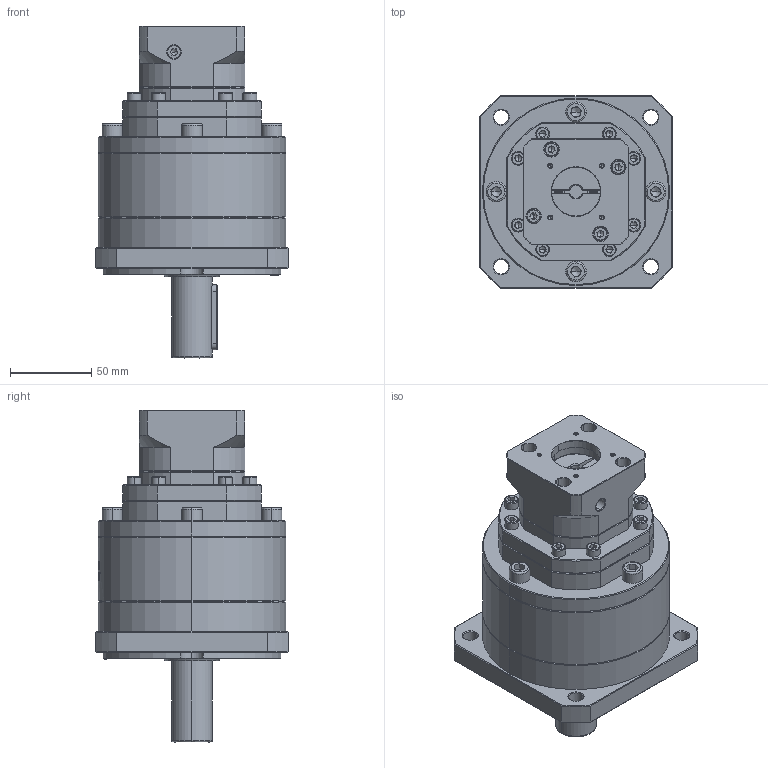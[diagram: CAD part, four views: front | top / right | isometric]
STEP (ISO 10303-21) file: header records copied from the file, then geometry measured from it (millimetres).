
FILE_DESCRIPTION (( 'STEP AP214' ), '1' );
FILE_NAME ('ZF120A-D25-L3-P2-8-30-45-M3.step', '2023-08-27T06:29:54', ( '' ), ( '' ), 'SwSTEP 2.0', 'SolidWorks 2016', '' );
FILE_SCHEMA (( 'AUTOMOTIVE_DESIGN' ));
Length unit declared in the file: millimetre
Products named in the file (1): ZF120A-D25-L3-P2-8-30-45-M3
Bounding box: 118 x 118 x 204 mm (x, y, z)
Volume: 1217377.7 mm3; surface area: 116617.6 mm2
Topology: 7 solids, 7 shells, 2356 faces, 6271 edges, 4025 vertices
Faces by surface type: plane 1179, bspline 435, cylinder 419, cone 301, torus 22
Entity records: 123282 total; most frequent: CARTESIAN_POINT 44094, ORIENTED_EDGE 12434, DIRECTION 9242, EDGE_CURVE 6217, VERTEX_POINT 4025, VECTOR 3344, LINE 3344, AXIS2_PLACEMENT_3D 2949
